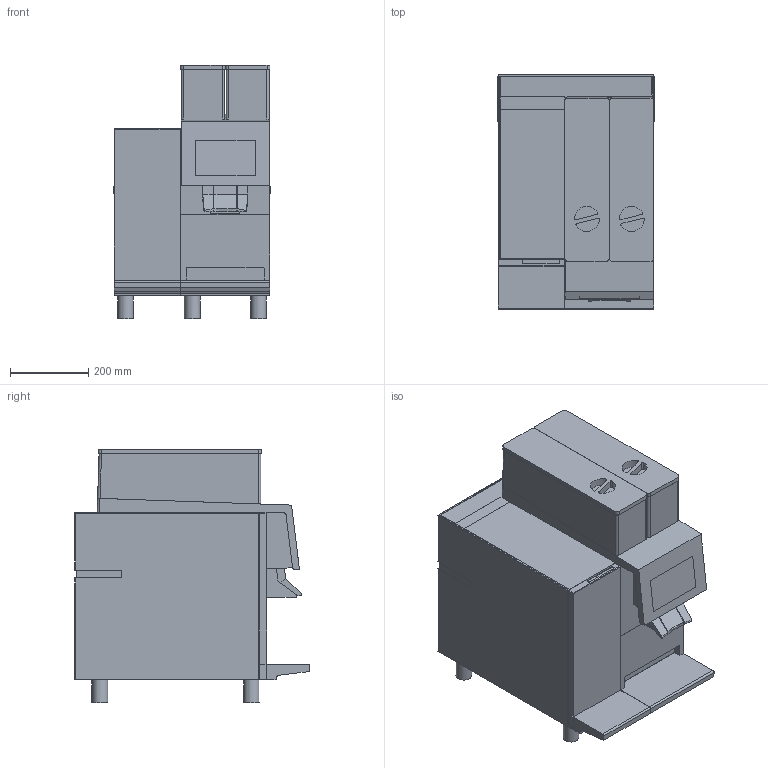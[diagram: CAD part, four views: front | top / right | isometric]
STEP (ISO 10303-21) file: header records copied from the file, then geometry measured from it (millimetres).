
FILE_DESCRIPTION(/* description */ ('Unknown'),/* implementation_level */ '2;1');
FILE_NAME(/* name */ 'HM_BW4c-CTM-RS',/* time_stamp */ '2026-08-14T14:26:36+02:00',/* author */ ('Unknown'),/* organization */ ('Unknown'),/* preprocessor_version */ 'ST-DEVELOPER v20',/* originating_system */ 'Solid Edge',/* authorisation */ 'Unknown');
FILE_SCHEMA (('AUTOMOTIVE_DESIGN {1 0 10303 214 3 1 1}'));
Length unit declared in the file: millimetre
Products named in the file (1): HM_BW4c-CTM-RS
Bounding box: 399.3 x 599.39 x 645.98 mm (x, y, z)
Volume: 101771909.6 mm3; surface area: 1799849.3 mm2
Topology: 1 solids, 1 shells, 286 faces, 787 edges, 506 vertices
Faces by surface type: plane 208, cylinder 74, sphere 4
Full cylindrical faces by diameter (mm): 40 x6
Entity records: 10984 total; most frequent: CARTESIAN_POINT 1564, ORIENTED_EDGE 1548, DIRECTION 1511, EDGE_CURVE 774, LINE 611, VECTOR 611, VERTEX_POINT 503, AXIS2_PLACEMENT_3D 450
